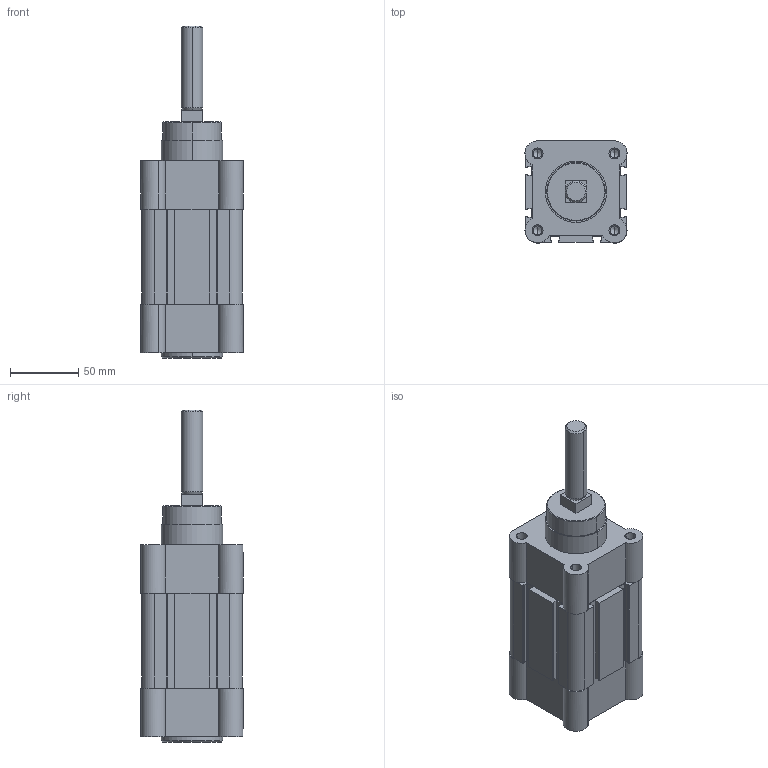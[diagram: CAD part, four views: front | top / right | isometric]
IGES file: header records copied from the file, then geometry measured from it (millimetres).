
Start section: Data from XPlus IGES,  Spatial Corp. Copyright (c) 1989-2001 .
Global section: file name: 163398_DNC_63_20_PPV_Q_30K2.igs; native system:  By Spatial Corp.; preprocessor: XPlus ACIS/IGES 3.0; author: Noname; organization: Noname; date: 20041211.172103; units: millimetre
Bounding box: 75 x 75 x 244 mm (x, y, z)
Surface area: 99356.9 mm2 (no closed solid volume)
Topology: 0 solids, 0 shells, 249 faces, 1256 edges, 1240 vertices
Faces by surface type: revolution 156, extrusion 93
